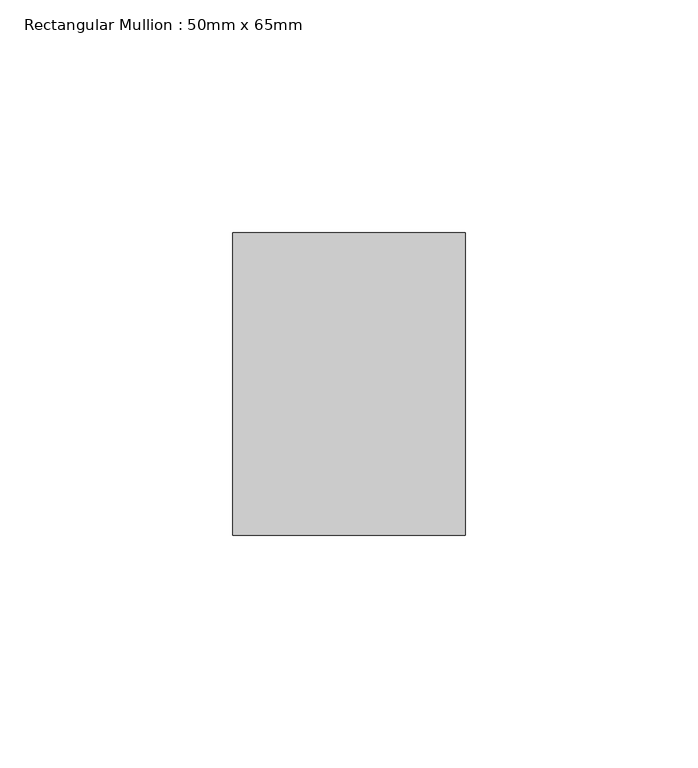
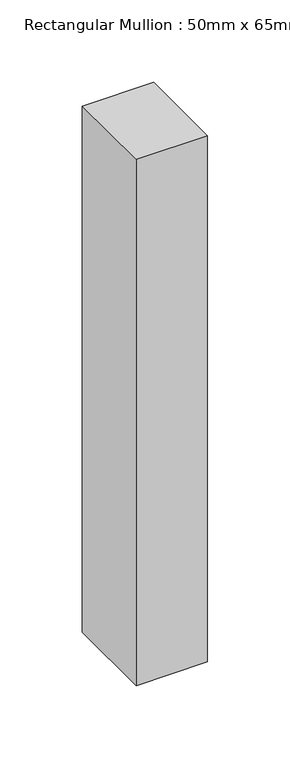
"""IFC4 building model written with IfcOpenShell, lengths in millimetres: member geometry, Rectangular Mullion : 50mm x 65mm."""

from ifc_helpers import new_model, si_unit, frame, origin, place, context, project, spatial, polyline, outline, extrude, source, transform, mapped, element, save


def rectangular_mullion_50mm_x_65mm_7c7c1d20(model_context):
    return source(origin(), model_context, "Body", "SweptSolid", [
        extrude(outline(polyline([(25.0, 32.5), (25.0, -32.5), (-25.0, -32.5), (-25.0, 32.5), (25.0, 32.5)])), frame((0.0, 0.0, -389.6492222), z_axis=(0.0, 0.0, 1.0), x_axis=(1.0, 0.0, 0.0)), (0.0, 0.0, 1.0), 389.6492222),
    ])


if __name__ == "__main__":
    model = new_model("IFC4")
    model_context = context("Model", 3, world=origin())
    ifc_project = project(units=[si_unit("LENGTHUNIT", "METRE", prefix="MILLI")], contexts=[model_context])
    site = spatial("IfcSite", under=ifc_project)
    building = spatial("IfcBuilding", under=site)
    placement = place(None, origin())
    rectangular_mullion_50mm_x_65mm_shape = rectangular_mullion_50mm_x_65mm_7c7c1d20(model_context)
    element("IfcMember", 1, ObjectType="Rectangular Mullion : 50mm x 65mm", at=placement, inside=building, context=model_context, shape_type="MappedRepresentation", body=[
        mapped(rectangular_mullion_50mm_x_65mm_shape, transform((0.0, 0.0, 0.0), x_axis=(1.0, 0.0, 0.0), y_axis=(0.0, 1.0, 0.0), z_axis=(0.0, 0.0, 1.0))),
    ])
    save(model, "model.ifc")
